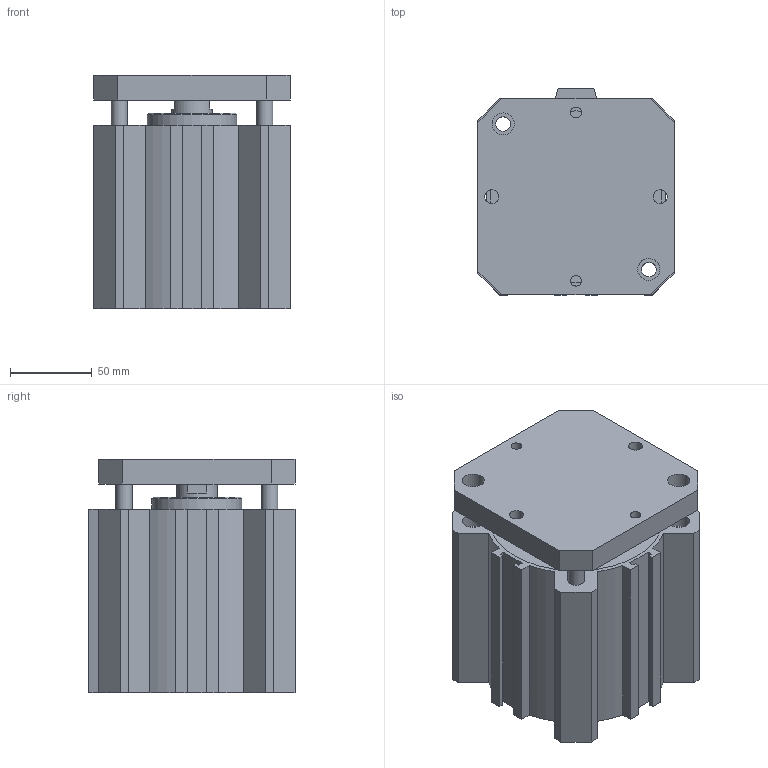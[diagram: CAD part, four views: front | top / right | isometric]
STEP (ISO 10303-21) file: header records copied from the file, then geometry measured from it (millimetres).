
FILE_DESCRIPTION(/* description */ (''),/* implementation_level */ '2;1');
FILE_NAME(/* name */ 'I:\Area Tecnica\Disegni\VARIE-3D\Componenti\1500\Ø100\15##_100_####_#\1501_100_0065_AR.stp',/* time_stamp */ '2016-08-24T15:10:18+02:00',/* author */ ('Maniean1'),/* organization */ (''),/* preprocessor_version */ 'ST-DEVELOPER v15.2',/* originating_system */ 'Autodesk Inventor 2014',/* authorisation */ '');
FILE_SCHEMA (('AUTOMOTIVE_DESIGN { 1 0 10303 214 3 1 1 }'));
Length unit declared in the file: millimetre
Products named in the file (3): C_1501_100_0065_AR; S_1501_100_0065_AR; 1501_100_0065_AR
Bounding box: 120 x 126 x 142.5 mm (x, y, z)
Volume: 1046514.5 mm3; surface area: 225390.4 mm2
Topology: 2 solids, 2 shells, 139 faces, 342 edges, 229 vertices
Faces by surface type: plane 94, cylinder 40, cone 5
Full cylindrical faces by diameter (mm): 6.647 x2, 8.5 x2, 9 x4, 10 x4, 13.5 x10, 14.95 x2, 25 x2, 55 x2, 100 x2, 105 x2
Entity records: 3978 total; most frequent: CARTESIAN_POINT 674, DIRECTION 672, ORIENTED_EDGE 600, EDGE_CURVE 300, AXIS2_PLACEMENT_3D 232, VERTEX_POINT 222, EDGE_LOOP 216, LINE 208
